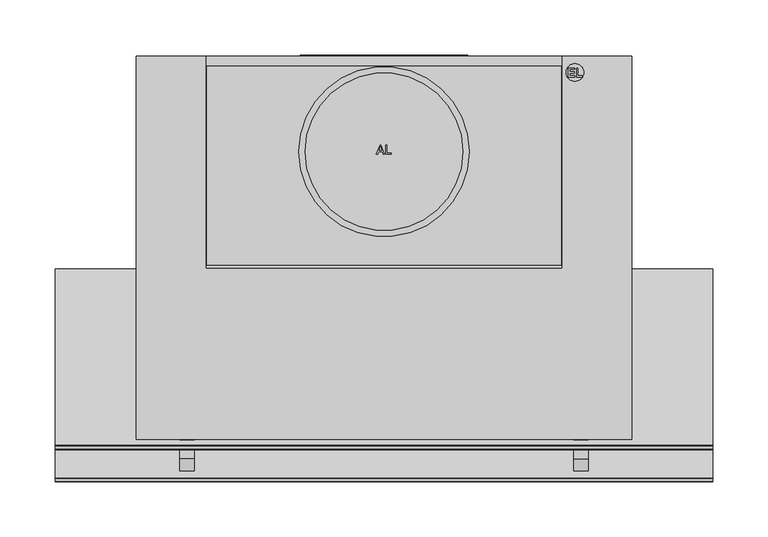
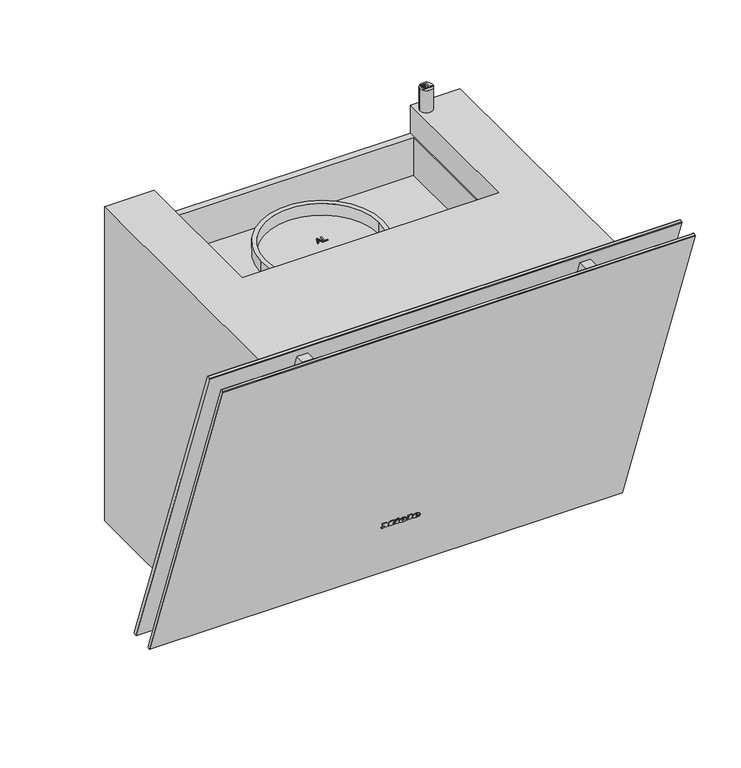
"""IFC4 building model written with IfcOpenShell, lengths in millimetres: proxy geometry, 12587910_BNE_DAH2660_OBSW : 28H2660B_BNE_12587910_DAH2660_OBSW."""

from ifc_helpers import new_model, si_unit, point, frame, frame_2d, origin, origin_with_axes, place, context, project, spatial, polyline, circle_curve, ellipse_curve, trimmed, segment, composite_curve, outline, extrude, faceted_brep, source, transform, mapped, element, save
from ifc_brep_helpers import plane_surface, cylinder_surface, revolved_surface, extruded_surface, advanced_brep


def specialty_equipment_4fd9b456(model_context):
    return source(origin(), model_context, "Body", "SolidModel", [
        extrude(outline(polyline([(0.0, 0.0), (0.968, 0.0), (0.968, 5.352), (0.0, 5.352), (0.0, 6.696), (3.52, 6.696), (3.52, 5.352), (2.56, 5.352), (2.56, 1.9488753), (6.136, 6.696), (9.728, 1.8807777), (9.728, 5.352), (8.744, 5.352), (8.744, 6.696), (15.128, 6.696), (15.128, 5.352), (14.112, 5.352), (14.112, 0.0), (15.128, 0.0), (15.128, -1.304), (10.256, -1.304), (7.92, 1.696), (5.576, -1.304), (0.0, -1.304), (0.0, 0.0)])), frame((-24.271984, -261.1380975, 82.2921818), z_axis=(0.0, 0.9396926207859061, 0.34202014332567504), x_axis=(1.0, 0.0, 0.0)), (0.0, 0.0, 1.0), 1.0),
        extrude(outline(polyline([(0.0, 0.0), (0.96, 0.0), (0.96, 5.352), (0.0, 5.352), (0.0, 6.696), (6.488, 6.696), (6.488, 5.352), (5.504, 5.352), (5.504, -1.304), (0.0, -1.304), (0.0, 0.0)])), frame((8.192016, -261.1380975, 82.2921818), z_axis=(0.0, 0.9396926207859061, 0.34202014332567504), x_axis=(1.0, 0.0, 0.0)), (0.0, 0.0, 1.0), 1.0),
        extrude(outline(polyline([(0.0, 0.0), (1.4315306, 0.0), (1.4390414, -2.9920869), (0.0109086, -2.9993294), (0.0, 0.0)])), frame((-6.351984, -261.4226582, 83.074006), z_axis=(0.0, 0.9396926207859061, 0.342020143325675), x_axis=(0.42472021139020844, 0.30963927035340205, -0.8507269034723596)), (0.0, 0.0, 1.0), 1.0),
        extrude(outline(polyline([(0.4933907, 2.4141097), (1.7898156, 3.022309), (2.1941493, 2.1604399), (5.1636141, 3.5535222), (4.7592805, 4.4153913), (5.9760369, 4.9862153), (8.6568708, -0.728194), (7.4401145, -1.299018), (7.0459741, -0.4588767), (2.7800843, -2.4601583), (0.4933907, 2.4141097)])), frame((-6.351984, -261.4226582, 83.074006), z_axis=(0.0, 0.9396926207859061, 0.342020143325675), x_axis=(0.42472021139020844, 0.30963927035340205, -0.8507269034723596)), (0.0, 0.0, 1.0), 1.0),
        advanced_brep(
        [(2.392016, -259.4964008, 77.7816572), (2.392016, -259.7727531, 78.5409288), (7.744016, -259.7727531, 78.5409288), (-1.567984, -259.7727531, 78.5409288), (0.632016, -258.8479306, 76.0), (7.608016, -259.4964008, 77.7816572), (5.192016, -259.4964008, 77.7816572), (3.288016, -259.1899507, 76.9396926), (2.392016, -260.1229817, 79.5031741), (2.392016, -260.4212233, 80.3225861), (3.760016, -260.4212233, 80.3225861), (3.760016, -260.1229817, 79.5031741), (2.392016, -258.5567082, 78.1236774), (3.288016, -258.2502581, 77.2817128), (5.192016, -258.5567082, 78.1236774), (7.608016, -258.5567082, 78.1236774), (0.632016, -257.908238, 76.3420201), (-1.567984, -258.8330604, 78.882949), (7.744016, -258.8330604, 78.882949), (2.392016, -258.8330604, 78.882949), (2.392016, -259.1832891, 79.8451942), (3.760016, -259.1832891, 79.8451942), (3.760016, -259.4815306, 80.6646062), (2.392016, -259.4815306, 80.6646062)],
        [
            (0, 1),
            (1, 2),
            (2, 3, ellipse_curve(frame((3.088016, -259.7727531, 78.5409288), z_axis=(0.0, -0.9396926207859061, -0.34202014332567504), x_axis=(-1.0, 0.0, 0.0)), 4.656, 3.848)),
            (3, 4, circle_curve(frame((1.5280596, -259.8657825, 78.7965252), z_axis=(0.0, -0.9396926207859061, -0.34202014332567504), x_axis=(0.0, 0.34202014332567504, -0.9396926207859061)), 3.1079688)),
            (4, 5, circle_curve(frame((2.9948096, -260.5881291, 80.7811561), z_axis=(0.0, -0.9396926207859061, -0.34202014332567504), x_axis=(0.0, 0.34202014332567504, -0.9396926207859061)), 5.6098607)),
            (5, 6),
            (6, 7, circle_curve(frame((3.6790748, -259.7508638, 78.4807885), z_axis=(0.0, 0.9396926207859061, 0.34202014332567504), x_axis=(0.0, 0.34202014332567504, -0.9396926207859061)), 1.6859795)),
            (7, 0, circle_curve(frame((3.288016, -259.4964008, 77.7816572), z_axis=(0.0, 0.9396926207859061, 0.34202014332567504), x_axis=(0.0, 0.34202014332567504, -0.9396926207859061)), 0.896)),
            (8, 9),
            (9, 10, circle_curve(frame((3.076016, -260.4212233, 80.3225861), z_axis=(0.0, 0.9396926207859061, 0.34202014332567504), x_axis=(0.0, 0.34202014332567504, -0.9396926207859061)), 0.684)),
            (10, 11),
            (11, 8),
            (12, 13, circle_curve(frame((3.288016, -258.5567082, 78.1236774), z_axis=(0.0, -0.9396926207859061, -0.34202014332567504), x_axis=(0.0, 0.34202014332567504, -0.9396926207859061)), 0.896)),
            (13, 14, circle_curve(frame((3.6790748, -258.8111712, 78.8228087), z_axis=(0.0, -0.9396926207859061, -0.34202014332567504), x_axis=(0.0, 0.34202014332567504, -0.9396926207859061)), 1.6859795)),
            (14, 15),
            (15, 16, circle_curve(frame((2.9948096, -259.6484365, 81.1231762), z_axis=(0.0, 0.9396926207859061, 0.34202014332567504), x_axis=(0.0, 0.34202014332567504, -0.9396926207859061)), 5.6098607)),
            (16, 17, circle_curve(frame((1.5280596, -258.9260899, 79.1385454), z_axis=(0.0, 0.9396926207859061, 0.34202014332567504), x_axis=(0.0, 0.34202014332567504, -0.9396926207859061)), 3.1079688)),
            (17, 18, ellipse_curve(frame((3.088016, -258.8330604, 78.882949), z_axis=(0.0, 0.9396926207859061, 0.34202014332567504), x_axis=(-1.0, 0.0, 0.0)), 4.656, 3.848)),
            (18, 19),
            (19, 12),
            (20, 21),
            (21, 22),
            (22, 23, circle_curve(frame((3.076016, -259.4815306, 80.6646062), z_axis=(0.0, -0.9396926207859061, -0.34202014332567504), x_axis=(0.0, 0.34202014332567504, -0.9396926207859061)), 0.684)),
            (23, 20),
            (0, 12),
            (19, 1),
            (18, 2),
            (5, 15),
            (14, 6),
            (17, 3),
            (13, 7),
            (16, 4),
            (8, 20),
            (23, 9),
            (22, 10),
            (21, 11),
        ],
        [
            plane_surface(frame((2.392016, -259.7727531, 78.5409288), z_axis=(0.0, -0.9396926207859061, -0.34202014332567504), x_axis=(0.0, -0.34202014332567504, 0.9396926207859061))),
            plane_surface(frame((2.392016, -258.8330604, 78.882949), z_axis=(0.0, 0.9396926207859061, 0.34202014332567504), x_axis=(0.0, 0.34202014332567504, -0.9396926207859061))),
            plane_surface(frame((2.392016, -259.4964008, 77.7816572), z_axis=(1.0, 0.0, 0.0), x_axis=(0.0, 0.9396926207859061, 0.34202014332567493))),
            plane_surface(frame((2.392016, -259.7727531, 78.5409288), z_axis=(0.0, 0.34202014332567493, -0.9396926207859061), x_axis=(0.0, 0.9396926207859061, 0.34202014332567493))),
            plane_surface(frame((7.608016, -259.4964008, 77.7816572), z_axis=(0.0, -0.34202014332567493, 0.9396926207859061), x_axis=(0.0, 0.9396926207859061, 0.34202014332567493))),
            extruded_surface(trimmed(ellipse_curve(frame((3.088016, -257.8933678, 79.2249691), z_axis=(0.0, -0.9396926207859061, -0.34202014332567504), x_axis=(-1.0, 0.0, 0.0)), 4.656, 3.848), [point((7.744016, -257.8933678, 79.2249691))], [point((-1.567984, -257.8933678, 79.2249691))], True, "CARTESIAN"), (0.0, -0.9396926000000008, -0.34202009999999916), 0.9999999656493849),
            revolved_surface(polyline([(3.6790748, -258.2345321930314, 77.23850622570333), (3.6790748, -259.1742248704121, 76.89648606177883)]), (3.6790748, -258.8111712, 78.8228087), (0.0, 0.9396926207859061, 0.34202014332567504)),
            revolved_surface(polyline([(3.288016, -258.25025810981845, 77.28171282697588), (3.288016, -259.1899507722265, 76.93969266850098)]), (3.288016, -258.5567082, 78.1236774), (0.0, 0.9396926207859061, 0.34202014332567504)),
            cylinder_surface(frame((1.5280596, -258.9260899, 79.1385454), z_axis=(0.0, -0.9396926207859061, -0.34202014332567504), x_axis=(0.0, 0.34202014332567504, -0.9396926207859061)), 3.1079688),
            cylinder_surface(frame((2.9948096, -259.6484365, 81.1231762), z_axis=(0.0, -0.9396926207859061, -0.34202014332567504), x_axis=(0.0, 0.34202014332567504, -0.9396926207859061)), 5.6098607),
            plane_surface(frame((2.392016, -260.1229817, 79.5031741), z_axis=(1.0, 0.0, 0.0), x_axis=(0.0, 0.9396926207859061, 0.34202014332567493))),
            revolved_surface(polyline([(3.076016, -259.2475888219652, 80.02185644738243), (3.076016, -260.1872814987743, 79.67983628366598)]), (3.076016, -259.4815306, 80.6646062), (0.0, 0.9396926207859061, 0.34202014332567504)),
            plane_surface(frame((3.760016, -260.4212233, 80.3225861), z_axis=(-1.0, 0.0, 0.0), x_axis=(0.0, 0.9396926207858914, 0.3420201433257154))),
            plane_surface(frame((3.760016, -260.1229817, 79.5031741), z_axis=(0.0, -0.34202014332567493, 0.9396926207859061), x_axis=(0.0, 0.9396926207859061, 0.34202014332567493))),
        ],
        [
            (0, [[1, 2, 3, 4, 5, 6, 7, 8], [9, 10, 11, 12]]),
            (1, [[13, 14, 15, 16, 17, 18, 19, 20], [21, 22, 23, 24]]),
            (2, [[-1, 25, -20, 26]]),
            (3, [[-2, -26, -19, 27]]),
            (4, [[-6, 28, -15, 29]]),
            (5, [[-3, -27, -18, 30]]),
            (6, [[-7, -29, -14, 31]]),
            (7, [[-8, -31, -13, -25]]),
            (8, [[-4, -30, -17, 32]]),
            (9, [[-5, -32, -16, -28]]),
            (10, [[-9, 33, -24, 34]]),
            (11, [[-10, -34, -23, 35]]),
            (12, [[-11, -35, -22, 36]]),
            (13, [[-12, -36, -21, -33]]),
        ],
    ),
        advanced_brep(
        [(19.088016, -259.4964008, 77.7816572), (19.088016, -259.7727531, 78.5409288), (24.440016, -259.7727531, 78.5409288), (15.128016, -259.7727531, 78.5409288), (17.328016, -258.8479306, 76.0), (24.304016, -259.4964008, 77.7816572), (21.888016, -259.4964008, 77.7816572), (19.984016, -259.1899507, 76.9396926), (19.088016, -260.1229817, 79.5031741), (19.088016, -260.4212233, 80.3225861), (20.456016, -260.4212233, 80.3225861), (20.456016, -260.1229817, 79.5031741), (19.088016, -258.5567082, 78.1236774), (19.984016, -258.2502581, 77.2817128), (21.888016, -258.5567082, 78.1236774), (24.304016, -258.5567082, 78.1236774), (17.328016, -257.908238, 76.3420201), (15.128016, -258.8330604, 78.882949), (24.440016, -258.8330604, 78.882949), (19.088016, -258.8330604, 78.882949), (19.088016, -259.1832891, 79.8451942), (20.456016, -259.1832891, 79.8451942), (20.456016, -259.4815306, 80.6646062), (19.088016, -259.4815306, 80.6646062)],
        [
            (0, 1),
            (1, 2),
            (2, 3, ellipse_curve(frame((19.784016, -259.7727531, 78.5409288), z_axis=(0.0, -0.9396926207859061, -0.34202014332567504), x_axis=(-1.0, 0.0, 0.0)), 4.656, 3.848)),
            (3, 4, circle_curve(frame((18.2240596, -259.8657825, 78.7965252), z_axis=(0.0, -0.9396926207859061, -0.34202014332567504), x_axis=(0.0, 0.34202014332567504, -0.9396926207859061)), 3.1079688)),
            (4, 5, circle_curve(frame((19.6908096, -260.5881291, 80.7811561), z_axis=(0.0, -0.9396926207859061, -0.34202014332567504), x_axis=(0.0, 0.34202014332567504, -0.9396926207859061)), 5.6098607)),
            (5, 6),
            (6, 7, circle_curve(frame((20.3750748, -259.7508638, 78.4807885), z_axis=(0.0, 0.9396926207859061, 0.34202014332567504), x_axis=(0.0, 0.34202014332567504, -0.9396926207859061)), 1.6859795)),
            (7, 0, circle_curve(frame((19.984016, -259.4964008, 77.7816572), z_axis=(0.0, 0.9396926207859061, 0.34202014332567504), x_axis=(0.0, 0.34202014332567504, -0.9396926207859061)), 0.896)),
            (8, 9),
            (9, 10, circle_curve(frame((19.772016, -260.4212233, 80.3225861), z_axis=(0.0, 0.9396926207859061, 0.34202014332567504), x_axis=(0.0, 0.34202014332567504, -0.9396926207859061)), 0.684)),
            (10, 11),
            (11, 8),
            (12, 13, circle_curve(frame((19.984016, -258.5567082, 78.1236774), z_axis=(0.0, -0.9396926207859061, -0.34202014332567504), x_axis=(0.0, 0.34202014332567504, -0.9396926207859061)), 0.896)),
            (13, 14, circle_curve(frame((20.3750748, -258.8111712, 78.8228087), z_axis=(0.0, -0.9396926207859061, -0.34202014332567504), x_axis=(0.0, 0.34202014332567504, -0.9396926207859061)), 1.6859795)),
            (14, 15),
            (15, 16, circle_curve(frame((19.6908096, -259.6484365, 81.1231762), z_axis=(0.0, 0.9396926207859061, 0.34202014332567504), x_axis=(0.0, 0.34202014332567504, -0.9396926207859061)), 5.6098607)),
            (16, 17, circle_curve(frame((18.2240596, -258.9260899, 79.1385454), z_axis=(0.0, 0.9396926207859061, 0.34202014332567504), x_axis=(0.0, 0.34202014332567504, -0.9396926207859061)), 3.1079688)),
            (17, 18, ellipse_curve(frame((19.784016, -258.8330604, 78.882949), z_axis=(0.0, 0.9396926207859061, 0.34202014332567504), x_axis=(-1.0, 0.0, 0.0)), 4.656, 3.848)),
            (18, 19),
            (19, 12),
            (20, 21),
            (21, 22),
            (22, 23, circle_curve(frame((19.772016, -259.4815306, 80.6646062), z_axis=(0.0, -0.9396926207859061, -0.34202014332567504), x_axis=(0.0, 0.34202014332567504, -0.9396926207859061)), 0.684)),
            (23, 20),
            (0, 12),
            (19, 1),
            (18, 2),
            (5, 15),
            (14, 6),
            (17, 3),
            (13, 7),
            (16, 4),
            (8, 20),
            (23, 9),
            (22, 10),
            (21, 11),
        ],
        [
            plane_surface(frame((19.088016, -259.7727531, 78.5409288), z_axis=(0.0, -0.9396926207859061, -0.34202014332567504), x_axis=(0.0, -0.34202014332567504, 0.9396926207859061))),
            plane_surface(frame((19.088016, -258.8330604, 78.882949), z_axis=(0.0, 0.9396926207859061, 0.34202014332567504), x_axis=(0.0, 0.34202014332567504, -0.9396926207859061))),
            plane_surface(frame((19.088016, -259.4964008, 77.7816572), z_axis=(1.0, 0.0, 0.0), x_axis=(0.0, 0.9396926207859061, 0.34202014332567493))),
            plane_surface(frame((19.088016, -259.7727531, 78.5409288), z_axis=(0.0, 0.34202014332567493, -0.9396926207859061), x_axis=(0.0, 0.9396926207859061, 0.34202014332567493))),
            plane_surface(frame((24.304016, -259.4964008, 77.7816572), z_axis=(0.0, -0.34202014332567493, 0.9396926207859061), x_axis=(0.0, 0.9396926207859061, 0.34202014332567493))),
            extruded_surface(trimmed(ellipse_curve(frame((19.784016, -257.8933678, 79.2249691), z_axis=(0.0, -0.9396926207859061, -0.34202014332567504), x_axis=(-1.0, 0.0, 0.0)), 4.656, 3.848), [point((24.440016, -257.8933678, 79.2249691))], [point((15.128016, -257.8933678, 79.2249691))], True, "CARTESIAN"), (0.0, -0.9396926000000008, -0.34202009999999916), 0.9999999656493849),
            revolved_surface(polyline([(20.3750748, -258.2345321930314, 77.23850622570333), (20.3750748, -259.1742248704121, 76.89648606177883)]), (20.3750748, -258.8111712, 78.8228087), (0.0, 0.9396926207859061, 0.34202014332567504)),
            revolved_surface(polyline([(19.984016, -258.25025810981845, 77.28171282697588), (19.984016, -259.1899507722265, 76.93969266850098)]), (19.984016, -258.5567082, 78.1236774), (0.0, 0.9396926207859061, 0.34202014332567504)),
            cylinder_surface(frame((18.2240596, -258.9260899, 79.1385454), z_axis=(0.0, -0.9396926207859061, -0.34202014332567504), x_axis=(0.0, 0.34202014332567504, -0.9396926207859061)), 3.1079688),
            cylinder_surface(frame((19.6908096, -259.6484365, 81.1231762), z_axis=(0.0, -0.9396926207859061, -0.34202014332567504), x_axis=(0.0, 0.34202014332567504, -0.9396926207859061)), 5.6098607),
            plane_surface(frame((19.088016, -260.1229817, 79.5031741), z_axis=(1.0, 0.0, 0.0), x_axis=(0.0, 0.9396926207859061, 0.34202014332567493))),
            revolved_surface(polyline([(19.772016, -259.2475888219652, 80.02185644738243), (19.772016, -260.1872814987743, 79.67983628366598)]), (19.772016, -259.4815306, 80.6646062), (0.0, 0.9396926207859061, 0.34202014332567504)),
            plane_surface(frame((20.456016, -260.4212233, 80.3225861), z_axis=(-1.0, 0.0, 0.0), x_axis=(0.0, 0.9396926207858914, 0.3420201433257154))),
            plane_surface(frame((20.456016, -260.1229817, 79.5031741), z_axis=(0.0, -0.34202014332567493, 0.9396926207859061), x_axis=(0.0, 0.9396926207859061, 0.34202014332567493))),
        ],
        [
            (0, [[1, 2, 3, 4, 5, 6, 7, 8], [9, 10, 11, 12]]),
            (1, [[13, 14, 15, 16, 17, 18, 19, 20], [21, 22, 23, 24]]),
            (2, [[-1, 25, -20, 26]]),
            (3, [[-2, -26, -19, 27]]),
            (4, [[-6, 28, -15, 29]]),
            (5, [[-3, -27, -18, 30]]),
            (6, [[-7, -29, -14, 31]]),
            (7, [[-8, -31, -13, -25]]),
            (8, [[-4, -30, -17, 32]]),
            (9, [[-5, -32, -16, -28]]),
            (10, [[-9, 33, -24, 34]]),
            (11, [[-10, -34, -23, 35]]),
            (12, [[-11, -35, -22, 36]]),
            (13, [[-12, -36, -21, -33]]),
        ],
    ),
        advanced_brep(
        [(-198.5, -231.2422284, 80.5173231), (-198.5, -240.9843308, 107.2835295), (-198.5, -235.8312261, 109.4708926), (-198.5, -225.8887113, 82.1540576), (-198.5, -250.514978, 76.8365225), (-198.5, -258.1140866, 97.7149017), (-198.5, -258.4754112, 96.7430581), (-198.5, -251.4164577, 77.3487429), (-198.5, -254.9459345, 87.0459005), (-198.5, -230.9198317, 95.7906867)],
        [
            (0, 1, circle_curve(frame((-198.5, -236.1132796, 93.9004263), z_axis=(0.0, 0.9396926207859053, 0.3420201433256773), x_axis=(0.0, -0.3420201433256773, 0.9396926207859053)), 14.2420009)),
            (1, 2),
            (2, 3, circle_curve(frame((-198.5, -230.8599687, 95.8124751), z_axis=(0.0, -0.9396926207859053, -0.3420201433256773), x_axis=(0.0, -0.3420201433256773, 0.9396926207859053)), 14.5349844)),
            (3, 0),
            (4, 5, circle_curve(frame((-198.5, -254.3145323, 87.2757121), z_axis=(0.0, 0.9396926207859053, 0.3420201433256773), x_axis=(0.0, -0.3420201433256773, 0.9396926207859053)), 11.1091535)),
            (5, 1),
            (0, 4),
            (6, 7, circle_curve(frame((-198.5, -254.9459345, 87.0459005), z_axis=(0.0, 0.9396926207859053, 0.3420201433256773), x_axis=(0.0, -0.3420201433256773, 0.9396926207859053)), 10.3194996)),
            (7, 4),
            (4, 5, circle_curve(frame((-198.5, -254.3145323, 87.2757121), z_axis=(0.0, -0.9396926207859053, -0.3420201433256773), x_axis=(0.0, -0.3420201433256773, 0.9396926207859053)), 11.1091535)),
            (5, 6),
            (8, 7),
            (6, 8),
            (2, 9),
            (9, 3),
            (2, 3, circle_curve(frame((-198.5, -230.9198317, 95.7906867), z_axis=(0.0, 0.9396926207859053, 0.3420201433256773), x_axis=(0.0, -0.3420201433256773, 0.9396926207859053)), 14.535124)),
            (1, 0, circle_curve(frame((-198.5, -236.1132796, 93.9004263), z_axis=(0.0, 0.9396926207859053, 0.3420201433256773), x_axis=(0.0, -0.3420201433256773, 0.9396926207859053)), 14.2420009)),
            (7, 6, circle_curve(frame((-198.5, -254.9459345, 87.0459005), z_axis=(0.0, 0.9396926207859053, 0.3420201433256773), x_axis=(0.0, -0.3420201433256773, 0.9396926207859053)), 10.3194996)),
        ],
        [
            revolved_surface(polyline([(-198.5, -235.8312261, 109.4708926), (-198.5, -240.9843308, 107.2835295)]), (-198.5, -255.2773841, 86.9252627), (0.0, -0.9396926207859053, -0.3420201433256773)),
            revolved_surface(polyline([(-198.5, -240.9843308, 107.2835295), (-198.5, -258.1140866, 97.7149017)]), (-198.5, -255.2773841, 86.9252627), (0.0, -0.9396926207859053, -0.3420201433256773)),
            revolved_surface(polyline([(-198.5, -258.1140866, 97.7149017), (-198.5, -258.4754112, 96.7430581)]), (-198.5, -255.2773841, 86.9252627), (0.0, -0.9396926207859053, -0.3420201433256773)),
            plane_surface(frame((-198.5, -254.9459345, 87.0459005), z_axis=(0.0, -0.9396926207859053, -0.3420201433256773), x_axis=(0.0, -0.3420201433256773, 0.9396926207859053))),
            plane_surface(frame((-198.5, -230.9198317, 95.7906867), z_axis=(0.0, 0.9396926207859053, 0.3420201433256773), x_axis=(0.0, -0.3420201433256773, 0.9396926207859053))),
        ],
        [
            (0, [[1, 2, 3, 4]]),
            (1, [[5, 6, -1, 7]]),
            (2, [[8, 9, 10, 11]]),
            (3, [[12, -8, 13]]),
            (4, [[-3, 14, 15]]),
            (4, [[16, -15, -14]]),
            (0, [[17, -4, -16, -2]]),
            (1, [[-10, -7, -17, -6]]),
            (2, [[18, -11, -5, -9]]),
            (3, [[-13, -18, -12]]),
        ],
    ),
        advanced_brep(
        [(-198.5, -262.8067778, 105.2732379), (-198.5, -249.4001153, 68.4387353), (-198.5, -252.3199878, 80.8696014), (-198.5, -257.0531232, 93.8737841), (-198.5, -250.699917, 68.232867), (-198.5, -263.9348133, 104.5954458), (-198.5, -257.3173652, 86.4141564), (-198.5, -254.6865555, 87.3716928)],
        [
            (0, 1, circle_curve(frame((-198.5, -256.1034466, 86.8559866), z_axis=(0.0, 0.9396926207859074, 0.34202014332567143), x_axis=(0.0, -0.34202014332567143, 0.9396926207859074)), 19.5992294)),
            (1, 2),
            (2, 3, circle_curve(frame((-198.5, -254.6865555, 87.3716928), z_axis=(0.0, -0.9396926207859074, -0.34202014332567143), x_axis=(0.0, -0.34202014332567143, 0.9396926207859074)), 6.9193811)),
            (3, 0),
            (1, 0, circle_curve(frame((-198.5, -256.1034466, 86.8559866), z_axis=(0.0, 0.9396926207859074, 0.34202014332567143), x_axis=(0.0, -0.34202014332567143, 0.9396926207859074)), 19.5992294)),
            (3, 2, circle_curve(frame((-198.5, -254.6865555, 87.3716928), z_axis=(0.0, -0.9396926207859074, -0.34202014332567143), x_axis=(0.0, -0.34202014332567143, 0.9396926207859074)), 6.9193811)),
            (4, 5, circle_curve(frame((-198.5, -257.3173652, 86.4141564), z_axis=(0.0, 0.9396926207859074, 0.34202014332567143), x_axis=(0.0, -0.34202014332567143, 0.9396926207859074)), 19.3481241)),
            (5, 0),
            (1, 4),
            (5, 4, circle_curve(frame((-198.5, -257.3173652, 86.4141564), z_axis=(0.0, 0.9396926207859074, 0.34202014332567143), x_axis=(0.0, -0.34202014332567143, 0.9396926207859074)), 19.3481241)),
            (6, 5),
            (4, 6),
            (3, 7),
            (7, 2),
        ],
        [
            revolved_surface(polyline([(-198.5, -257.0531232, 93.8737841), (-198.5, -262.8067778, 105.2732379)]), (-198.5, -254.6865555, 87.3716928), (0.0, -0.9396926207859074, -0.34202014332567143)),
            revolved_surface(polyline([(-198.5, -262.8067778, 105.2732379), (-198.5, -263.9348133, 104.5954458)]), (-198.5, -254.6865555, 87.3716928), (0.0, -0.9396926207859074, -0.34202014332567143)),
            plane_surface(frame((-198.5, -257.3173652, 86.4141564), z_axis=(0.0, -0.9396926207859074, -0.34202014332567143), x_axis=(0.0, -0.34202014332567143, 0.9396926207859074))),
            plane_surface(frame((-198.5, -254.6865555, 87.3716928), z_axis=(0.0, 0.9396926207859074, 0.34202014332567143), x_axis=(0.0, -0.34202014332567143, 0.9396926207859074))),
        ],
        [
            (0, [[1, 2, 3, 4]]),
            (0, [[5, -4, 6, -2]]),
            (1, [[7, 8, -5, 9]]),
            (1, [[10, -9, -1, -8]]),
            (2, [[11, -7, 12]]),
            (2, [[-12, -10, -11]]),
            (3, [[-6, 13, 14]]),
            (3, [[-3, -14, -13]]),
        ],
    ),
        advanced_brep(
        [(198.5, -225.9091808, 82.1477994), (198.5, -235.8509293, 109.4625291), (198.5, -240.9843308, 107.2835295), (198.5, -231.2422284, 80.5173231), (198.5, -258.1140866, 97.7149017), (198.5, -250.514978, 76.8365225), (198.5, -230.9018417, 95.8650227), (198.5, -258.4754112, 96.7430581), (198.5, -251.4164577, 77.3487429), (198.5, -254.9459345, 87.0459005)],
        [
            (0, 1, circle_curve(frame((198.5, -230.8800551, 95.8051643), z_axis=(0.0, -0.9396926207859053, -0.3420201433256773), x_axis=(0.0, -0.3420201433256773, 0.9396926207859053)), 14.5338641)),
            (1, 2),
            (2, 3, circle_curve(frame((198.5, -236.1132796, 93.9004263), z_axis=(0.0, 0.9396926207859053, 0.3420201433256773), x_axis=(0.0, -0.3420201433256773, 0.9396926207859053)), 14.2420009)),
            (3, 0),
            (2, 4),
            (4, 5, circle_curve(frame((198.5, -254.3145323, 87.2757121), z_axis=(0.0, 0.9396926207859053, 0.3420201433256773), x_axis=(0.0, -0.3420201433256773, 0.9396926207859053)), 11.1091535)),
            (5, 3),
            (6, 1),
            (0, 6),
            (0, 1, circle_curve(frame((198.5, -230.8800551, 95.8051643), z_axis=(0.0, 0.9396926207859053, 0.3420201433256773), x_axis=(0.0, -0.3420201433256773, 0.9396926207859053)), 14.5338641)),
            (3, 2, circle_curve(frame((198.5, -236.1132796, 93.9004263), z_axis=(0.0, 0.9396926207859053, 0.3420201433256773), x_axis=(0.0, -0.3420201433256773, 0.9396926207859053)), 14.2420009)),
            (5, 4, circle_curve(frame((198.5, -254.3145323, 87.2757121), z_axis=(0.0, 0.9396926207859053, 0.3420201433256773), x_axis=(0.0, -0.3420201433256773, 0.9396926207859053)), 11.1091535)),
            (4, 7),
            (7, 8, circle_curve(frame((198.5, -254.9459345, 87.0459005), z_axis=(0.0, 0.9396926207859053, 0.3420201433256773), x_axis=(0.0, -0.3420201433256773, 0.9396926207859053)), 10.3194996)),
            (8, 5),
            (8, 7, circle_curve(frame((198.5, -254.9459345, 87.0459005), z_axis=(0.0, 0.9396926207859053, 0.3420201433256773), x_axis=(0.0, -0.3420201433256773, 0.9396926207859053)), 10.3194996)),
            (7, 9),
            (9, 8),
        ],
        [
            revolved_surface(polyline([(198.5, -240.9843308, 107.2835295), (198.5, -235.8509293, 109.4625291)]), (198.5, -255.2773841, 86.9252627), (0.0, 0.9396926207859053, 0.3420201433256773)),
            revolved_surface(polyline([(198.5, -258.1140866, 97.7149017), (198.5, -240.9843308, 107.2835295)]), (198.5, -255.2773841, 86.9252627), (0.0, 0.9396926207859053, 0.3420201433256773)),
            plane_surface(frame((198.5, -230.8800551, 95.8051643), z_axis=(0.0, 0.9396926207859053, 0.3420201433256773), x_axis=(0.0, -0.3420201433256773, 0.9396926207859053))),
            revolved_surface(polyline([(198.5, -258.4754112, 96.7430581), (198.5, -258.1140866, 97.7149017)]), (198.5, -255.2773841, 86.9252627), (0.0, 0.9396926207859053, 0.3420201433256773)),
            plane_surface(frame((198.5, -254.9459345, 87.0459005), z_axis=(0.0, -0.9396926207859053, -0.3420201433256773), x_axis=(0.0, -0.3420201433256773, 0.9396926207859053))),
        ],
        [
            (0, [[1, 2, 3, 4]]),
            (1, [[-3, 5, 6, 7]]),
            (2, [[8, -1, 9]]),
            (2, [[-9, 10, -8]]),
            (0, [[-10, -4, 11, -2]]),
            (1, [[-11, -7, 12, -5]]),
            (3, [[-6, 13, 14, 15]]),
            (3, [[-12, -15, 16, -13]]),
            (4, [[-14, 17, 18]]),
            (4, [[-16, -18, -17]]),
        ],
    ),
        advanced_brep(
        [(198.5, -252.3199878, 80.8696014), (198.5, -257.0531232, 93.8737841), (198.5, -262.8067778, 105.2732379), (198.5, -249.4001153, 68.4387353), (198.5, -263.9348133, 104.5954458), (198.5, -250.699917, 68.232867), (198.5, -257.3173652, 86.4141564), (198.5, -254.6865555, 87.3716928)],
        [
            (0, 1, circle_curve(frame((198.5, -254.6865555, 87.3716928), z_axis=(0.0, -0.9396926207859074, -0.34202014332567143), x_axis=(0.0, -0.34202014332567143, 0.9396926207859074)), 6.9193811)),
            (1, 2),
            (2, 3, circle_curve(frame((198.5, -256.1034466, 86.8559866), z_axis=(0.0, 0.9396926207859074, 0.34202014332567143), x_axis=(0.0, -0.34202014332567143, 0.9396926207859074)), 19.5992294)),
            (3, 0),
            (1, 0, circle_curve(frame((198.5, -254.6865555, 87.3716928), z_axis=(0.0, -0.9396926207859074, -0.34202014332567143), x_axis=(0.0, -0.34202014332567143, 0.9396926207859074)), 6.9193811)),
            (3, 2, circle_curve(frame((198.5, -256.1034466, 86.8559866), z_axis=(0.0, 0.9396926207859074, 0.34202014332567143), x_axis=(0.0, -0.34202014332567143, 0.9396926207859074)), 19.5992294)),
            (2, 4),
            (4, 5, circle_curve(frame((198.5, -257.3173652, 86.4141564), z_axis=(0.0, 0.9396926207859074, 0.34202014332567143), x_axis=(0.0, -0.34202014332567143, 0.9396926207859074)), 19.3481241)),
            (5, 3),
            (5, 4, circle_curve(frame((198.5, -257.3173652, 86.4141564), z_axis=(0.0, 0.9396926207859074, 0.34202014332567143), x_axis=(0.0, -0.34202014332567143, 0.9396926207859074)), 19.3481241)),
            (4, 6),
            (6, 5),
            (7, 1),
            (0, 7),
        ],
        [
            revolved_surface(polyline([(198.5, -262.8067778, 105.2732379), (198.5, -257.0531232, 93.8737841)]), (198.5, -254.6865555, 87.3716928), (0.0, 0.9396926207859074, 0.34202014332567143)),
            revolved_surface(polyline([(198.5, -263.9348133, 104.5954458), (198.5, -262.8067778, 105.2732379)]), (198.5, -254.6865555, 87.3716928), (0.0, 0.9396926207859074, 0.34202014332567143)),
            plane_surface(frame((198.5, -257.3173652, 86.4141564), z_axis=(0.0, -0.9396926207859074, -0.34202014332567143), x_axis=(0.0, -0.34202014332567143, 0.9396926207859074))),
            plane_surface(frame((198.5, -254.6865555, 87.3716928), z_axis=(0.0, 0.9396926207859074, 0.34202014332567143), x_axis=(0.0, -0.34202014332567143, 0.9396926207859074))),
        ],
        [
            (0, [[1, 2, 3, 4]]),
            (0, [[5, -4, 6, -2]]),
            (1, [[-3, 7, 8, 9]]),
            (1, [[-6, -9, 10, -7]]),
            (2, [[-8, 11, 12]]),
            (2, [[-10, -12, -11]]),
            (3, [[13, -1, 14]]),
            (3, [[-14, -5, -13]]),
        ],
    ),
        extrude(outline(polyline([(-377.2541471, 415.9959153), (-366.2530147, 420.0), (-348.8949883, 420.0), (-315.0686278, 327.0628384), (-321.2276447, 324.8211395), (-334.9582954, 325.4920509), (-347.6637142, 334.6968691), (-377.2541471, 415.9959153)])), frame((-185.7167767, 0.0, 0.0), z_axis=(1.0, 0.0, 0.0), x_axis=(0.0, 1.0, 0.0)), (0.0, 0.0, 1.0), 13.4088513),
        extrude(outline(polyline([(-377.2541471, 415.9959153), (-366.2530147, 420.0), (-348.8949883, 420.0), (-315.0686278, 327.0628384), (-321.2276447, 324.8211395), (-334.9582954, 325.4920509), (-347.6637142, 334.6968691), (-377.2541471, 415.9959153)])), frame((172.3079253, 0.0, 0.0), z_axis=(1.0, 0.0, 0.0), x_axis=(0.0, 1.0, 0.0)), (0.0, 0.0, 1.0), 13.4088513),
        extrude(outline(polyline([(-387.1323401, 432.8365045), (-384.310791, 433.8634644), (-383.5944926, 433.4158714), (-223.2772642, -7.0520936), (-223.5613092, -7.7920563), (-226.3696341, -8.8142029), (-227.0596169, -8.4158411), (-387.3899893, 432.0882368), (-387.1323401, 432.8365045)])), frame((-299.0, 0.0, 0.0), z_axis=(1.0, 0.0, 0.0), x_axis=(0.0, 1.0, 0.0)), (0.0, 0.0, 1.0), 598.0),
        extrude(outline(polyline([(-357.7500767, 432.8365045), (-354.6517562, 433.9642009), (-353.7790899, 433.4190033), (-193.5484199, -6.8114741), (-193.8719465, -7.7304916), (-196.9340313, -8.8449984), (-197.6773535, -8.4158411), (-358.007726, 432.0882368), (-357.7500767, 432.8365045)])), frame((-299.0, 0.0, 0.0), z_axis=(1.0, 0.0, 0.0), x_axis=(0.0, 1.0, 0.0)), (0.0, 0.0, 1.0), 598.0),
        extrude(outline(polyline([(-287.1198024, 229.753659), (-287.6205942, 218.2841221), (-296.0848836, 210.5280081), (-301.7042998, 208.4827078), (-327.3688694, 278.9955333), (-319.9071972, 281.7113599), (-309.7792372, 280.1072486), (-302.5107089, 272.039827), (-287.1198024, 229.753659)])), frame((182.9499624, 0.0, 0.0), z_axis=(1.0, 0.0, 0.0), x_axis=(0.0, 1.0, 0.0)), (0.0, 0.0, 1.0), 3.1163744),
        extrude(outline(composite_curve([segment(trimmed(circle_curve(frame_2d((0.0, -6.0)), 6.0), [point((0.0, -12.0))], [point((0.0, 0.0))], False, "CARTESIAN"), True, "CONTINUOUS"), segment(trimmed(circle_curve(frame_2d((0.0, -6.0)), 6.0), [point((0.0, 0.0))], [point((0.0, -12.0))], False, "CARTESIAN"), True, "CONTINUOUS")], self_intersect=False)), frame((198.4796168, -304.9287055, 251.8746642), z_axis=(0.0, -0.3420201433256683, 0.9396926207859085), x_axis=(0.0, -0.9396926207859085, -0.3420201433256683)), (0.0, 0.0, 1.0), 126.121517),
        faceted_brep([(225.0000193, -349.0, 420.0), (225.0000193, -196.2332597, 0.0), (225.0000193, 0.0, 0.0), (225.0000193, 0.0, 420.0), (-225.0000193, -349.0, 420.0), (-225.0000193, 0.0, 420.0), (-225.0000193, 0.0, 0.0), (-225.0000193, -196.2332597, 0.0), (176.5, -48.0, 0.0), (-176.5, -48.0, 0.0), (-176.5, -181.0, 0.0), (176.5, -181.0, 0.0), (125.0, -12.0, 0.0), (-125.0, -12.0, 0.0), (-125.0, -38.0, 0.0), (125.0, -38.0, 0.0), (-162.2229137, 0.0, 420.0), (-162.2229137, 0.0, 382.5), (162.2229137, 0.0, 382.5), (162.2229137, 0.0, 420.0), (-160.9556997, -9.0, 332.0), (160.9556997, -9.0, 332.0), (160.9556997, -9.0, 382.5), (-160.9556997, -9.0, 382.5), (-160.9556997, -190.0399284, 332.0), (-160.9556997, -190.0399284, 382.5), (160.9556997, -190.0399284, 332.0), (160.9556997, -190.0399284, 382.5), (176.5, -48.0, 11.0), (-176.5, -48.0, 11.0), (125.0, -12.0, 11.0), (-125.0, -12.0, 11.0), (162.2229137, -193.2332597, 420.0), (-162.2229137, -193.2332597, 420.0), (176.5, -181.0, 11.0), (-176.5, -181.0, 11.0), (125.0, -38.0, 11.0), (-125.0, -38.0, 11.0), (162.2229137, -193.2332597, 382.5), (-162.2229137, -193.2332597, 382.5)], [[[0, 1, 2, 3]], [[4, 5, 6, 7]], [[1, 0, 4, 7]], [[2, 1, 7, 6], [8, 9, 10, 11], [12, 13, 14, 15]], [[3, 2, 6, 5, 16, 17, 18, 19]], [[20, 21, 22, 23]], [[24, 20, 23, 25]], [[21, 26, 27, 22]], [[28, 29, 9, 8]], [[30, 31, 13, 12]], [[0, 3, 19, 32, 33, 16, 5, 4]], [[21, 20, 24, 26]], [[26, 24, 25, 27]], [[28, 34, 35, 29]], [[29, 35, 10, 9]], [[35, 34, 11, 10]], [[34, 28, 8, 11]], [[30, 36, 37, 31]], [[31, 37, 14, 13]], [[37, 36, 15, 14]], [[36, 30, 12, 15]], [[32, 38, 39, 33]], [[39, 38, 18, 17], [23, 22, 27, 25]], [[38, 32, 19, 18]], [[33, 39, 17, 16]]]),
        extrude(outline(polyline([(125.0, -12.0), (125.0, -38.0), (-125.0, -38.0), (-125.0, -12.0), (125.0, -12.0)]), holes=[polyline([(-119.0, -31.2), (119.0, -31.2), (119.0, -18.8), (-119.0, -18.8), (-119.0, -31.2)])]), origin_with_axes(), (0.0, 0.0, 1.0), 11.0),
        extrude(outline(polyline([(119.0, -18.8), (119.0, -31.2), (-119.0, -31.2), (-119.0, -18.8), (119.0, -18.8)])), origin_with_axes(), (0.0, 0.0, 1.0), 11.0),
        extrude(outline(polyline([(176.5, -48.0), (176.5, -181.0), (-176.5, -181.0), (-176.5, -48.0), (176.5, -48.0)]), holes=[polyline([(167.5, -57.0), (-167.5, -57.0), (-167.5, -172.0), (167.5, -172.0), (167.5, -57.0)])]), origin_with_axes(), (0.0, 0.0, 1.0), 11.0),
        extrude(outline(polyline([(167.5, -57.0), (167.5, -172.0), (-167.5, -172.0), (-167.5, -57.0), (167.5, -57.0)])), frame((0.0, 0.0, 1.0), z_axis=(0.0, 0.0, 1.0), x_axis=(1.0, 0.0, 0.0)), (0.0, 0.0, 1.0), 10.0),
        extrude(outline(polyline([(-167.5, -98.0), (-124.5000193, -98.0), (-124.5000193, -131.0), (-167.5, -131.0), (-167.5, -98.0)]), holes=[polyline([(-131.0000193, -104.5), (-160.0000193, -104.5), (-160.0000193, -124.5), (-131.0000193, -124.5), (-131.0000193, -104.5)])]), origin_with_axes(), (0.0, 0.0, 1.0), 1.0),
        extrude(outline(polyline([(-131.0000193, -104.5), (-131.0000193, -124.5), (-140.0000193, -124.5), (-140.0000193, -104.5), (-131.0000193, -104.5)])), origin_with_axes(), (0.0, 0.0, 1.0), 1.0),
        extrude(outline(composite_curve([segment(trimmed(circle_curve(frame_2d((0.0, -86.9971466)), 77.2963157), [point((-77.2963157, -86.9971466))], [point((77.2963157, -86.9971466))], False, "CARTESIAN"), True, "CONTINUOUS"), segment(trimmed(circle_curve(frame_2d((0.0, -86.9971466)), 77.2963157), [point((77.2963157, -86.9971466))], [point((-77.2963157, -86.9971466))], False, "CARTESIAN"), True, "CONTINUOUS")], self_intersect=False), holes=[composite_curve([segment(trimmed(circle_curve(frame_2d((0.0, -86.9971466)), 71.617422), [point((-71.617422, -86.9971466))], [point((71.617422, -86.9971466))], True, "CARTESIAN"), True, "CONTINUOUS"), segment(trimmed(circle_curve(frame_2d((0.0, -86.9971466)), 71.617422), [point((71.617422, -86.9971466))], [point((-71.617422, -86.9971466))], True, "CARTESIAN"), True, "CONTINUOUS")], self_intersect=False)]), frame((0.0, 0.0, 332.0), z_axis=(0.0, 0.0, 1.0), x_axis=(1.0, 0.0, 0.0)), (0.0, 0.0, 1.0), 15.9326282),
        extrude(outline(polyline([(-6.8377, -89.2416424), (-3.629769, -81.2051375), (-2.7743208, -81.2051375), (0.4336102, -89.2416424), (-0.6278519, -89.2416424), (-1.5480474, -86.7302346), (-4.8580044, -86.7302346), (-5.7762378, -89.2416424), (-6.8377, -89.2416424)]), holes=[polyline([(-4.4891414, -85.7256715), (-1.9149484, -85.7256715), (-2.6389402, -83.7498999), (-3.2020449, -82.2097006), (-3.7023644, -83.5772407), (-4.4891414, -85.7256715)])]), frame((0.0, 0.0, 347.9326282), z_axis=(0.0, 0.0, 1.0), x_axis=(1.0, 0.0, 0.0)), (0.0, 0.0, 1.0), 1.0),
        extrude(outline(polyline([(1.5068447, -89.2416424), (1.5068447, -81.2051375), (2.5114078, -81.2051375), (2.5114078, -88.2370793), (6.5296602, -88.2370793), (6.5296602, -89.2416424), (1.5068447, -89.2416424)])), frame((0.0, 0.0, 347.9326282), z_axis=(0.0, 0.0, 1.0), x_axis=(1.0, 0.0, 0.0)), (0.0, 0.0, 1.0), 1.0),
        extrude(outline(composite_curve([segment(trimmed(circle_curve(frame_2d((192.5519409, 0.0)), 76.1990432), [point((192.5519409, -76.1990432))], [point((192.5519409, 76.1990432))], False, "CARTESIAN"), True, "CONTINUOUS"), segment(trimmed(circle_curve(frame_2d((192.5519409, 0.0)), 76.1990432), [point((192.5519409, 76.1990432))], [point((192.5519409, -76.1990432))], False, "CARTESIAN"), True, "CONTINUOUS")], self_intersect=False)), frame((0.0, 0.0, 0.0), z_axis=(0.0, 1.0, 0.0), x_axis=(0.0, 0.0, 1.0)), (0.0, 0.0, 1.0), 1.0),
        extrude(outline(composite_curve([segment(trimmed(circle_curve(frame_2d((173.4999807, -15.0000005)), 8.0), [point((165.4999807, -15.0000005))], [point((181.4999807, -15.0000005))], False, "CARTESIAN"), True, "CONTINUOUS"), segment(trimmed(circle_curve(frame_2d((173.4999807, -15.0000005)), 8.0), [point((181.4999807, -15.0000005))], [point((165.4999807, -15.0000005))], False, "CARTESIAN"), True, "CONTINUOUS")], self_intersect=False)), frame((0.0, 0.0, 420.0), z_axis=(0.0, 0.0, 1.0), x_axis=(1.0, 0.0, 0.0)), (0.0, 0.0, 1.0), 30.0),
        extrude(outline(polyline([(167.5981725, -19.0000005), (167.5981725, -10.9634957), (173.3744104, -10.9634957), (173.3744104, -11.9680588), (168.6027356, -11.9680588), (168.6027356, -14.3538961), (173.1232696, -14.3538961), (173.1232696, -15.3584592), (168.6027356, -15.3584592), (168.6027356, -17.9954374), (173.4999807, -17.9954374), (173.4999807, -19.0000005), (167.5981725, -19.0000005)])), frame((0.0, 0.0, 450.0), z_axis=(0.0, 0.0, 1.0), x_axis=(1.0, 0.0, 0.0)), (0.0, 0.0, 1.0), 1.0),
        extrude(outline(polyline([(175.0068254, -19.0000005), (175.0068254, -10.9634957), (176.0113885, -10.9634957), (176.0113885, -17.9954374), (180.0296409, -17.9954374), (180.0296409, -19.0000005), (175.0068254, -19.0000005)])), frame((0.0, 0.0, 450.0), z_axis=(0.0, 0.0, 1.0), x_axis=(1.0, 0.0, 0.0)), (0.0, 0.0, 1.0), 1.0),
    ])


if __name__ == "__main__":
    model = new_model("IFC4")
    model_context = context("Model", 3, world=origin())
    ifc_project = project(units=[si_unit("LENGTHUNIT", "METRE", prefix="MILLI")], contexts=[model_context])
    site = spatial("IfcSite", under=ifc_project)
    building = spatial("IfcBuilding", under=site)
    placement = place(None, origin())
    specialty_equipment_shape = specialty_equipment_4fd9b456(model_context)
    element("IfcBuildingElementProxy", 1, Name="12587910_BNE_DAH2660_OBSW : 28H2660B_BNE_12587910_DAH2660_OBSW", ObjectType="12587910_BNE_DAH2660_OBSW : 28H2660B_BNE_12587910_DAH2660_OBSW", at=placement, inside=building, context=model_context, shape_type="MappedRepresentation", body=[
        mapped(specialty_equipment_shape, transform((0.0, 0.0, 0.0), x_axis=(1.0, 0.0, 0.0), y_axis=(0.0, 1.0, 0.0), z_axis=(0.0, 0.0, 1.0))),
    ])
    save(model, "model.ifc")
